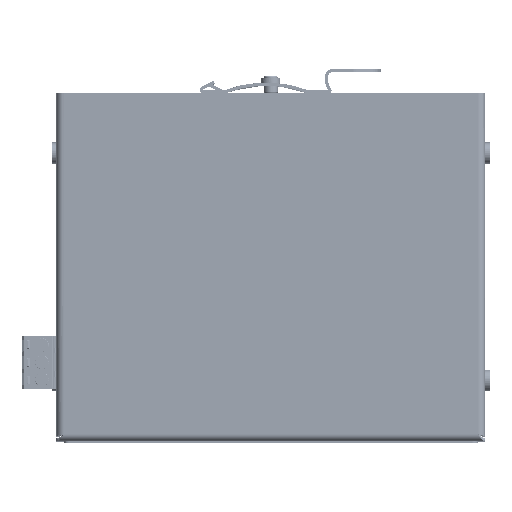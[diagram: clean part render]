
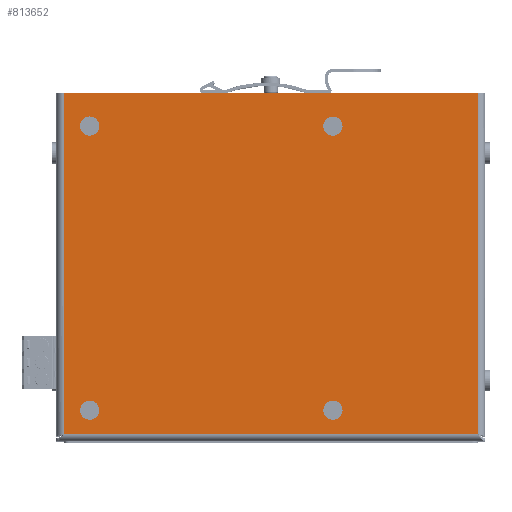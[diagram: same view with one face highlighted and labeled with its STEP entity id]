
A CAD part, top view. The second image highlights one B-rep face of the part: STEP entity #813652.
In plain terms, the highlighted planar face has unit normal (0, 0, 1).
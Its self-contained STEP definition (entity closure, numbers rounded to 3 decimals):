
#49378=FACE_BOUND('',#130739,.T.);
#49379=FACE_BOUND('',#130740,.T.);
#49380=FACE_BOUND('',#130741,.T.);
#49381=FACE_BOUND('',#130742,.T.);
#83207=FACE_OUTER_BOUND('',#130738,.T.);
#130738=EDGE_LOOP('',(#765824,#765825,#765826,#765827));
#130739=EDGE_LOOP('',(#765828));
#130740=EDGE_LOOP('',(#765829));
#130741=EDGE_LOOP('',(#765830));
#130742=EDGE_LOOP('',(#765831));
#191957=CIRCLE('',#959876,2.7);
#191959=CIRCLE('',#959879,2.7);
#191961=CIRCLE('',#959882,2.7);
#191963=CIRCLE('',#959885,2.7);
#265795=LINE('',#1571619,#339977);
#265798=LINE('',#1571629,#339980);
#265801=LINE('',#1571636,#339983);
#265802=LINE('',#1571638,#339984);
#339977=VECTOR('',#1225193,10.);
#339980=VECTOR('',#1225206,10.);
#339983=VECTOR('',#1225217,10.);
#339984=VECTOR('',#1225220,10.);
#466111=VERTEX_POINT('',#1571288);
#466113=VERTEX_POINT('',#1571294);
#466115=VERTEX_POINT('',#1571300);
#466117=VERTEX_POINT('',#1571306);
#466137=VERTEX_POINT('',#1571400);
#466147=VERTEX_POINT('',#1571575);
#466148=VERTEX_POINT('',#1571617);
#466150=VERTEX_POINT('',#1571628);
#601981=EDGE_CURVE('',#466111,#466111,#191957,.T.);
#601984=EDGE_CURVE('',#466113,#466113,#191959,.T.);
#601987=EDGE_CURVE('',#466115,#466115,#191961,.T.);
#601990=EDGE_CURVE('',#466117,#466117,#191963,.T.);
#602055=EDGE_CURVE('',#466147,#466148,#265795,.T.);
#602059=EDGE_CURVE('',#466150,#466137,#265798,.T.);
#602063=EDGE_CURVE('',#466137,#466147,#265801,.T.);
#602064=EDGE_CURVE('',#466150,#466148,#265802,.T.);
#765824=ORIENTED_EDGE('',*,*,#602055,.T.);
#765825=ORIENTED_EDGE('',*,*,#602064,.F.);
#765826=ORIENTED_EDGE('',*,*,#602059,.T.);
#765827=ORIENTED_EDGE('',*,*,#602063,.T.);
#765828=ORIENTED_EDGE('',*,*,#601981,.T.);
#765829=ORIENTED_EDGE('',*,*,#601984,.T.);
#765830=ORIENTED_EDGE('',*,*,#601987,.T.);
#765831=ORIENTED_EDGE('',*,*,#601990,.T.);
#779613=PLANE('',#959929);
#813652=ADVANCED_FACE('',(#83207,#49378,#49379,#49380,#49381),#779613,.T.);
#959876=AXIS2_PLACEMENT_3D('',#1571289,#1225056,#1225057);
#959879=AXIS2_PLACEMENT_3D('',#1571295,#1225063,#1225064);
#959882=AXIS2_PLACEMENT_3D('',#1571301,#1225070,#1225071);
#959885=AXIS2_PLACEMENT_3D('',#1571307,#1225077,#1225078);
#959929=AXIS2_PLACEMENT_3D('',#1571637,#1225218,#1225219);
#1225056=DIRECTION('center_axis',(0.,0.,-1.));
#1225057=DIRECTION('ref_axis',(1.,0.,0.));
#1225063=DIRECTION('center_axis',(0.,0.,-1.));
#1225064=DIRECTION('ref_axis',(1.,0.,0.));
#1225070=DIRECTION('center_axis',(0.,0.,-1.));
#1225071=DIRECTION('ref_axis',(1.,0.,0.));
#1225077=DIRECTION('center_axis',(0.,0.,-1.));
#1225078=DIRECTION('ref_axis',(1.,0.,0.));
#1225193=DIRECTION('',(0.,1.,0.));
#1225206=DIRECTION('',(0.,-1.,0.));
#1225217=DIRECTION('',(1.,0.,0.));
#1225218=DIRECTION('center_axis',(0.,0.,1.));
#1225219=DIRECTION('ref_axis',(1.,0.,0.));
#1225220=DIRECTION('',(1.,0.,0.));
#1571288=CARTESIAN_POINT('',(13.8,39.3,1.));
#1571289=CARTESIAN_POINT('Origin',(16.5,39.3,1.));
#1571294=CARTESIAN_POINT('',(13.8,-40.7,1.));
#1571295=CARTESIAN_POINT('Origin',(16.5,-40.7,1.));
#1571300=CARTESIAN_POINT('',(-54.7,-40.7,1.));
#1571301=CARTESIAN_POINT('Origin',(-52.,-40.7,1.));
#1571306=CARTESIAN_POINT('',(-54.7,39.3,1.));
#1571307=CARTESIAN_POINT('Origin',(-52.,39.3,1.));
#1571400=CARTESIAN_POINT('',(-59.35,-47.5,1.));
#1571575=CARTESIAN_POINT('',(57.35,-47.5,1.));
#1571617=CARTESIAN_POINT('',(57.35,48.5,1.));
#1571619=CARTESIAN_POINT('',(57.35,-24.,1.));
#1571628=CARTESIAN_POINT('',(-59.35,48.5,1.));
#1571629=CARTESIAN_POINT('',(-59.35,24.,1.));
#1571636=CARTESIAN_POINT('',(-30.175,-47.5,1.));
#1571637=CARTESIAN_POINT('Origin',(-1.,-0.5,
1.));
#1571638=CARTESIAN_POINT('',(59.35,48.5,1.));
